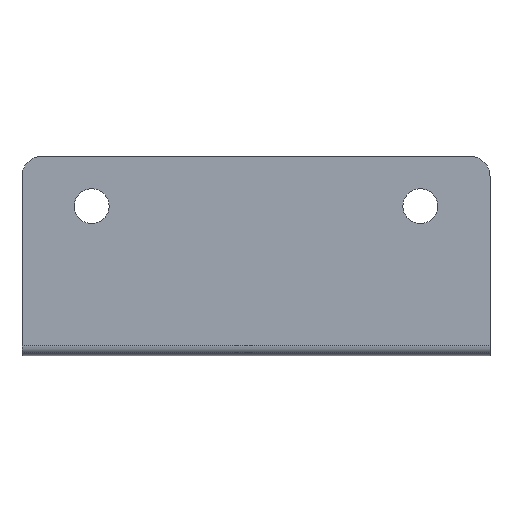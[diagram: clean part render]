
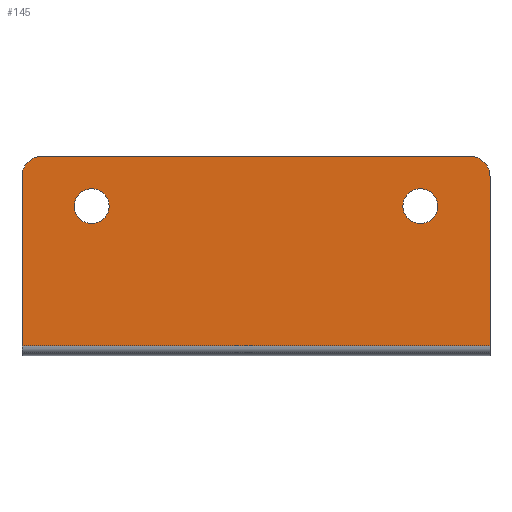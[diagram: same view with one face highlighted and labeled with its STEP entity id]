
A CAD part, left-side view. The second image highlights one B-rep face of the part: STEP entity #145.
In plain terms, the highlighted planar face has unit normal (-1, 0, 0).
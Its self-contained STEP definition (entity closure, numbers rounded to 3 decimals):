
#145=ADVANCED_FACE('',(#292,#293,#294),#295,.F.);
#292=FACE_OUTER_BOUND('',#439,.T.);
#293=FACE_BOUND('',#440,.T.);
#294=FACE_BOUND('',#441,.T.);
#295=PLANE('',#442);
#439=EDGE_LOOP('',(#810,#811,#812,#813,#814,#815,#816,#817));
#440=EDGE_LOOP('',(#818,#819));
#441=EDGE_LOOP('',(#820,#821));
#442=AXIS2_PLACEMENT_3D('',#822,#823,#824);
#810=ORIENTED_EDGE('',*,*,#972,.F.);
#811=ORIENTED_EDGE('',*,*,#1050,.F.);
#812=ORIENTED_EDGE('',*,*,#1041,.F.);
#813=ORIENTED_EDGE('',*,*,#1051,.F.);
#814=ORIENTED_EDGE('',*,*,#929,.F.);
#815=ORIENTED_EDGE('',*,*,#1052,.F.);
#816=ORIENTED_EDGE('',*,*,#1027,.F.);
#817=ORIENTED_EDGE('',*,*,#1053,.F.);
#818=ORIENTED_EDGE('',*,*,#1006,.T.);
#819=ORIENTED_EDGE('',*,*,#1000,.T.);
#820=ORIENTED_EDGE('',*,*,#1010,.T.);
#821=ORIENTED_EDGE('',*,*,#1019,.T.);
#822=CARTESIAN_POINT('',(119.452,113.448,23.5));
#823=DIRECTION('',(1.0,0.,0.));
#824=DIRECTION('',(0.,-1.0,0.));
#929=EDGE_CURVE('',#1131,#1134,#1135,.T.);
#972=EDGE_CURVE('',#1206,#1208,#1209,.T.);
#1000=EDGE_CURVE('',#1234,#1239,#1241,.T.);
#1006=EDGE_CURVE('',#1239,#1234,#1247,.T.);
#1010=EDGE_CURVE('',#1253,#1250,#1254,.T.);
#1019=EDGE_CURVE('',#1250,#1253,#1264,.T.);
#1027=EDGE_CURVE('',#1274,#1269,#1276,.T.);
#1041=EDGE_CURVE('',#1290,#1292,#1293,.T.);
#1050=EDGE_CURVE('',#1292,#1206,#1305,.T.);
#1051=EDGE_CURVE('',#1134,#1290,#1306,.T.);
#1052=EDGE_CURVE('',#1269,#1131,#1307,.T.);
#1053=EDGE_CURVE('',#1208,#1274,#1308,.T.);
#1131=VERTEX_POINT('',#1404);
#1134=VERTEX_POINT('',#1408);
#1135=LINE('',#1409,#1410);
#1206=VERTEX_POINT('',#1505);
#1208=VERTEX_POINT('',#1507);
#1209=LINE('',#1508,#1509);
#1234=VERTEX_POINT('',#1545);
#1239=VERTEX_POINT('',#1551);
#1241=CIRCLE('',#1554,1.75);
#1247=CIRCLE('',#1562,1.75);
#1250=VERTEX_POINT('',#1565);
#1253=VERTEX_POINT('',#1569);
#1254=CIRCLE('',#1570,1.75);
#1264=CIRCLE('',#1583,1.75);
#1269=VERTEX_POINT('',#1589);
#1274=VERTEX_POINT('',#1595);
#1276=CIRCLE('',#1598,2.);
#1290=VERTEX_POINT('',#1616);
#1292=VERTEX_POINT('',#1619);
#1293=CIRCLE('',#1620,2.);
#1305=LINE('',#1634,#1635);
#1306=CIRCLE('',#1636,2.);
#1307=CIRCLE('',#1637,2.);
#1308=LINE('',#1638,#1639);
#1404=CARTESIAN_POINT('',(119.452,134.948,33.5));
#1408=CARTESIAN_POINT('',(119.452,91.948,33.5));
#1409=CARTESIAN_POINT('',(119.452,113.448,33.5));
#1410=VECTOR('',#1713,1.0);
#1505=CARTESIAN_POINT('',(119.452,89.948,14.5));
#1507=CARTESIAN_POINT('',(119.452,136.948,14.5));
#1508=CARTESIAN_POINT('',(119.452,113.448,14.5));
#1509=VECTOR('',#1777,1.0);
#1545=CARTESIAN_POINT('',(119.452,96.948,30.25));
#1551=CARTESIAN_POINT('',(119.452,96.948,26.75));
#1554=AXIS2_PLACEMENT_3D('',#1803,#1804,#1805);
#1562=AXIS2_PLACEMENT_3D('',#1808,#1809,#1810);
#1565=CARTESIAN_POINT('',(119.452,129.948,30.25));
#1569=CARTESIAN_POINT('',(119.452,129.948,26.75));
#1570=AXIS2_PLACEMENT_3D('',#1815,#1816,#1817);
#1583=AXIS2_PLACEMENT_3D('',#1827,#1828,#1829);
#1589=CARTESIAN_POINT('',(119.452,136.362,32.914));
#1595=CARTESIAN_POINT('',(119.452,136.948,31.5));
#1598=AXIS2_PLACEMENT_3D('',#1836,#1837,#1838);
#1616=CARTESIAN_POINT('',(119.452,90.534,32.914));
#1619=CARTESIAN_POINT('',(119.452,89.948,31.5));
#1620=AXIS2_PLACEMENT_3D('',#1844,#1845,#1846);
#1634=CARTESIAN_POINT('',(119.452,89.948,23.5));
#1635=VECTOR('',#1858,1.0);
#1636=AXIS2_PLACEMENT_3D('',#1859,#1860,#1861);
#1637=AXIS2_PLACEMENT_3D('',#1862,#1863,#1864);
#1638=CARTESIAN_POINT('',(119.452,136.948,23.5));
#1639=VECTOR('',#1865,1.0);
#1713=DIRECTION('',(0.,-1.0,0.));
#1777=DIRECTION('',(0.,1.0,0.));
#1803=CARTESIAN_POINT('',(119.452,96.948,28.5));
#1804=DIRECTION('',(1.0,0.,0.));
#1805=DIRECTION('',(0.,0.0,1.0));
#1808=CARTESIAN_POINT('',(119.452,96.948,28.5));
#1809=DIRECTION('',(1.0,0.,0.));
#1810=DIRECTION('',(0.,0.0,1.0));
#1815=CARTESIAN_POINT('',(119.452,129.948,28.5));
#1816=DIRECTION('',(1.0,0.,0.));
#1817=DIRECTION('',(0.,0.0,1.0));
#1827=CARTESIAN_POINT('',(119.452,129.948,28.5));
#1828=DIRECTION('',(1.0,0.,0.));
#1829=DIRECTION('',(0.,0.0,1.0));
#1836=CARTESIAN_POINT('',(119.452,134.948,31.5));
#1837=DIRECTION('',(1.0,0.,0.));
#1838=DIRECTION('',(0.0,0.707,0.707));
#1844=CARTESIAN_POINT('',(119.452,91.948,31.5));
#1845=DIRECTION('',(1.0,0.,0.));
#1846=DIRECTION('',(0.,-0.707,0.707));
#1858=DIRECTION('',(0.,0.0,-1.0));
#1859=CARTESIAN_POINT('',(119.452,91.948,31.5));
#1860=DIRECTION('',(1.0,0.,0.));
#1861=DIRECTION('',(0.,-0.707,0.707));
#1862=CARTESIAN_POINT('',(119.452,134.948,31.5));
#1863=DIRECTION('',(1.0,0.,0.));
#1864=DIRECTION('',(0.0,0.707,0.707));
#1865=DIRECTION('',(0.,0.0,1.0));
